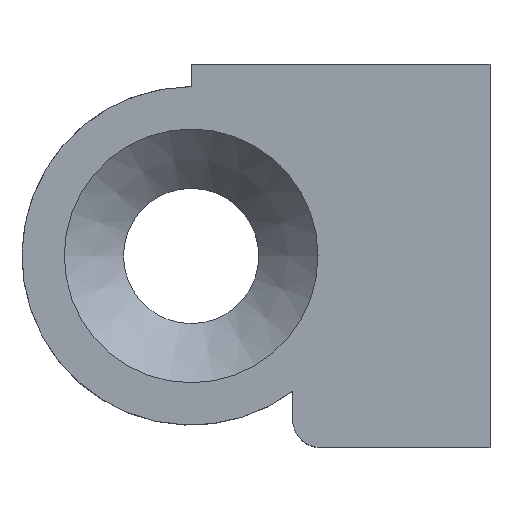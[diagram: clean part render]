
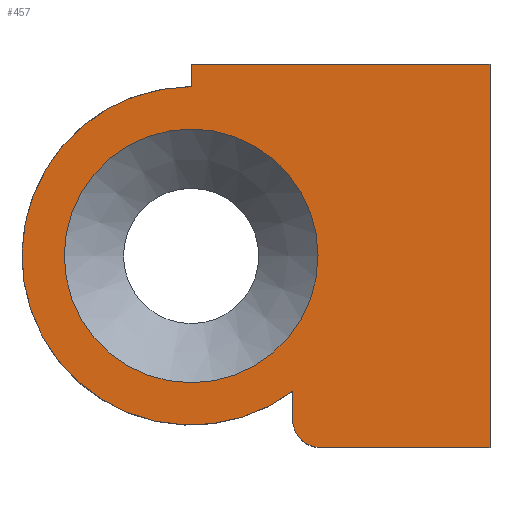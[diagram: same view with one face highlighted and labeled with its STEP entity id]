
A CAD part, top view. The second image highlights one B-rep face of the part: STEP entity #457.
In plain terms, the highlighted planar face has unit normal (0, 0, 1).
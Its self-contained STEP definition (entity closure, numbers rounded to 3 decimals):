
#44 = PLANE('',#45);
#45 = AXIS2_PLACEMENT_3D('',#46,#47,#48);
#46 = CARTESIAN_POINT('',(13.2,3.4,12.1));
#47 = DIRECTION('',(-0.,1.,0.));
#48 = DIRECTION('',(0.,0.,1.));
#72 = PLANE('',#73);
#73 = AXIS2_PLACEMENT_3D('',#74,#75,#76);
#74 = CARTESIAN_POINT('',(13.2,-2.4,12.1));
#75 = DIRECTION('',(1.,0.,-0.));
#76 = DIRECTION('',(0.,0.,1.));
#101 = CYLINDRICAL_SURFACE('',#102,3.);
#102 = AXIS2_PLACEMENT_3D('',#103,#104,#105);
#103 = CARTESIAN_POINT('',(13.2,0.,11.484));
#104 = DIRECTION('',(0.,0.,1.));
#105 = DIRECTION('',(1.,0.,-0.));
#129 = PLANE('',#130);
#130 = AXIS2_PLACEMENT_3D('',#131,#132,#133);
#131 = CARTESIAN_POINT('',(15.,-3.4,10.9));
#132 = DIRECTION('',(1.,0.,0.));
#133 = DIRECTION('',(0.,0.,1.));
#292 = CYLINDRICAL_SURFACE('',#293,0.5);
#293 = AXIS2_PLACEMENT_3D('',#294,#295,#296);
#294 = CARTESIAN_POINT('',(15.5,-2.9,10.9));
#295 = DIRECTION('',(0.,0.,1.));
#296 = DIRECTION('',(-1.,-0.,0.));
#320 = PLANE('',#321);
#321 = AXIS2_PLACEMENT_3D('',#322,#323,#324);
#322 = CARTESIAN_POINT('',(15.,-3.4,10.9));
#323 = DIRECTION('',(0.,1.,0.));
#324 = DIRECTION('',(0.,-0.,1.));
#348 = PLANE('',#349);
#349 = AXIS2_PLACEMENT_3D('',#350,#351,#352);
#350 = CARTESIAN_POINT('',(18.5,1.,12.8));
#351 = DIRECTION('',(1.,0.,-0.));
#352 = DIRECTION('',(0.,0.,1.));
#386 = VERTEX_POINT('',#387);
#387 = CARTESIAN_POINT('',(18.5,3.4,13.284));
#408 = EDGE_CURVE('',#409,#386,#411,.T.);
#409 = VERTEX_POINT('',#410);
#410 = CARTESIAN_POINT('',(18.5,-3.4,13.284));
#411 = SURFACE_CURVE('',#412,(#416,#423),.PCURVE_S1.);
#412 = LINE('',#413,#414);
#413 = CARTESIAN_POINT('',(18.5,-3.4,13.284));
#414 = VECTOR('',#415,1.);
#415 = DIRECTION('',(0.,1.,0.));
#416 = PCURVE('',#348,#417);
#417 = DEFINITIONAL_REPRESENTATION('',(#418),#422);
#418 = LINE('',#419,#420);
#419 = CARTESIAN_POINT('',(0.484,4.4));
#420 = VECTOR('',#421,1.);
#421 = DIRECTION('',(0.,-1.));
#422 = ( GEOMETRIC_REPRESENTATION_CONTEXT(2) 
PARAMETRIC_REPRESENTATION_CONTEXT() REPRESENTATION_CONTEXT('2D SPACE',''
  ) );
#423 = PCURVE('',#424,#429);
#424 = PLANE('',#425);
#425 = AXIS2_PLACEMENT_3D('',#426,#427,#428);
#426 = CARTESIAN_POINT('',(13.2,0.,13.284));
#427 = DIRECTION('',(0.,0.,1.));
#428 = DIRECTION('',(1.,0.,-0.));
#429 = DEFINITIONAL_REPRESENTATION('',(#430),#434);
#430 = LINE('',#431,#432);
#431 = CARTESIAN_POINT('',(5.3,-3.4));
#432 = VECTOR('',#433,1.);
#433 = DIRECTION('',(0.,1.));
#434 = ( GEOMETRIC_REPRESENTATION_CONTEXT(2) 
PARAMETRIC_REPRESENTATION_CONTEXT() REPRESENTATION_CONTEXT('2D SPACE',''
  ) );
#457 = ADVANCED_FACE('',(#458,#599),#424,.T.);
#458 = FACE_BOUND('',#459,.T.);
#459 = EDGE_LOOP('',(#460,#483,#506,#530,#553,#577,#598));
#460 = ORIENTED_EDGE('',*,*,#461,.F.);
#461 = EDGE_CURVE('',#462,#386,#464,.T.);
#462 = VERTEX_POINT('',#463);
#463 = CARTESIAN_POINT('',(13.2,3.4,13.284));
#464 = SURFACE_CURVE('',#465,(#469,#476),.PCURVE_S1.);
#465 = LINE('',#466,#467);
#466 = CARTESIAN_POINT('',(13.2,3.4,13.284));
#467 = VECTOR('',#468,1.);
#468 = DIRECTION('',(1.,0.,0.));
#469 = PCURVE('',#424,#470);
#470 = DEFINITIONAL_REPRESENTATION('',(#471),#475);
#471 = LINE('',#472,#473);
#472 = CARTESIAN_POINT('',(0.,3.4));
#473 = VECTOR('',#474,1.);
#474 = DIRECTION('',(1.,0.));
#475 = ( GEOMETRIC_REPRESENTATION_CONTEXT(2) 
PARAMETRIC_REPRESENTATION_CONTEXT() REPRESENTATION_CONTEXT('2D SPACE',''
  ) );
#476 = PCURVE('',#44,#477);
#477 = DEFINITIONAL_REPRESENTATION('',(#478),#482);
#478 = LINE('',#479,#480);
#479 = CARTESIAN_POINT('',(1.184,0.));
#480 = VECTOR('',#481,1.);
#481 = DIRECTION('',(0.,1.));
#482 = ( GEOMETRIC_REPRESENTATION_CONTEXT(2) 
PARAMETRIC_REPRESENTATION_CONTEXT() REPRESENTATION_CONTEXT('2D SPACE',''
  ) );
#483 = ORIENTED_EDGE('',*,*,#484,.F.);
#484 = EDGE_CURVE('',#485,#462,#487,.T.);
#485 = VERTEX_POINT('',#486);
#486 = CARTESIAN_POINT('',(13.2,3.,13.284));
#487 = SURFACE_CURVE('',#488,(#492,#499),.PCURVE_S1.);
#488 = LINE('',#489,#490);
#489 = CARTESIAN_POINT('',(13.2,-2.4,13.284));
#490 = VECTOR('',#491,1.);
#491 = DIRECTION('',(-0.,1.,0.));
#492 = PCURVE('',#424,#493);
#493 = DEFINITIONAL_REPRESENTATION('',(#494),#498);
#494 = LINE('',#495,#496);
#495 = CARTESIAN_POINT('',(0.,-2.4));
#496 = VECTOR('',#497,1.);
#497 = DIRECTION('',(0.,1.));
#498 = ( GEOMETRIC_REPRESENTATION_CONTEXT(2) 
PARAMETRIC_REPRESENTATION_CONTEXT() REPRESENTATION_CONTEXT('2D SPACE',''
  ) );
#499 = PCURVE('',#72,#500);
#500 = DEFINITIONAL_REPRESENTATION('',(#501),#505);
#501 = LINE('',#502,#503);
#502 = CARTESIAN_POINT('',(1.184,0.));
#503 = VECTOR('',#504,1.);
#504 = DIRECTION('',(0.,-1.));
#505 = ( GEOMETRIC_REPRESENTATION_CONTEXT(2) 
PARAMETRIC_REPRESENTATION_CONTEXT() REPRESENTATION_CONTEXT('2D SPACE',''
  ) );
#506 = ORIENTED_EDGE('',*,*,#507,.T.);
#507 = EDGE_CURVE('',#485,#508,#510,.T.);
#508 = VERTEX_POINT('',#509);
#509 = CARTESIAN_POINT('',(15.,-2.4,13.284));
#510 = SURFACE_CURVE('',#511,(#516,#523),.PCURVE_S1.);
#511 = CIRCLE('',#512,3.);
#512 = AXIS2_PLACEMENT_3D('',#513,#514,#515);
#513 = CARTESIAN_POINT('',(13.2,0.,13.284));
#514 = DIRECTION('',(0.,0.,1.));
#515 = DIRECTION('',(1.,0.,-0.));
#516 = PCURVE('',#424,#517);
#517 = DEFINITIONAL_REPRESENTATION('',(#518),#522);
#518 = CIRCLE('',#519,3.);
#519 = AXIS2_PLACEMENT_2D('',#520,#521);
#520 = CARTESIAN_POINT('',(0.,0.));
#521 = DIRECTION('',(1.,0.));
#522 = ( GEOMETRIC_REPRESENTATION_CONTEXT(2) 
PARAMETRIC_REPRESENTATION_CONTEXT() REPRESENTATION_CONTEXT('2D SPACE',''
  ) );
#523 = PCURVE('',#101,#524);
#524 = DEFINITIONAL_REPRESENTATION('',(#525),#529);
#525 = LINE('',#526,#527);
#526 = CARTESIAN_POINT('',(0.,1.8));
#527 = VECTOR('',#528,1.);
#528 = DIRECTION('',(1.,0.));
#529 = ( GEOMETRIC_REPRESENTATION_CONTEXT(2) 
PARAMETRIC_REPRESENTATION_CONTEXT() REPRESENTATION_CONTEXT('2D SPACE',''
  ) );
#530 = ORIENTED_EDGE('',*,*,#531,.F.);
#531 = EDGE_CURVE('',#532,#508,#534,.T.);
#532 = VERTEX_POINT('',#533);
#533 = CARTESIAN_POINT('',(15.,-2.9,13.284));
#534 = SURFACE_CURVE('',#535,(#539,#546),.PCURVE_S1.);
#535 = LINE('',#536,#537);
#536 = CARTESIAN_POINT('',(15.,-3.4,13.284));
#537 = VECTOR('',#538,1.);
#538 = DIRECTION('',(-0.,1.,0.));
#539 = PCURVE('',#424,#540);
#540 = DEFINITIONAL_REPRESENTATION('',(#541),#545);
#541 = LINE('',#542,#543);
#542 = CARTESIAN_POINT('',(1.8,-3.4));
#543 = VECTOR('',#544,1.);
#544 = DIRECTION('',(0.,1.));
#545 = ( GEOMETRIC_REPRESENTATION_CONTEXT(2) 
PARAMETRIC_REPRESENTATION_CONTEXT() REPRESENTATION_CONTEXT('2D SPACE',''
  ) );
#546 = PCURVE('',#129,#547);
#547 = DEFINITIONAL_REPRESENTATION('',(#548),#552);
#548 = LINE('',#549,#550);
#549 = CARTESIAN_POINT('',(2.384,0.));
#550 = VECTOR('',#551,1.);
#551 = DIRECTION('',(0.,-1.));
#552 = ( GEOMETRIC_REPRESENTATION_CONTEXT(2) 
PARAMETRIC_REPRESENTATION_CONTEXT() REPRESENTATION_CONTEXT('2D SPACE',''
  ) );
#553 = ORIENTED_EDGE('',*,*,#554,.T.);
#554 = EDGE_CURVE('',#532,#555,#557,.T.);
#555 = VERTEX_POINT('',#556);
#556 = CARTESIAN_POINT('',(15.5,-3.4,13.284));
#557 = SURFACE_CURVE('',#558,(#563,#570),.PCURVE_S1.);
#558 = CIRCLE('',#559,0.5);
#559 = AXIS2_PLACEMENT_3D('',#560,#561,#562);
#560 = CARTESIAN_POINT('',(15.5,-2.9,13.284));
#561 = DIRECTION('',(0.,0.,1.));
#562 = DIRECTION('',(-1.,0.,0.));
#563 = PCURVE('',#424,#564);
#564 = DEFINITIONAL_REPRESENTATION('',(#565),#569);
#565 = CIRCLE('',#566,0.5);
#566 = AXIS2_PLACEMENT_2D('',#567,#568);
#567 = CARTESIAN_POINT('',(2.3,-2.9));
#568 = DIRECTION('',(-1.,0.));
#569 = ( GEOMETRIC_REPRESENTATION_CONTEXT(2) 
PARAMETRIC_REPRESENTATION_CONTEXT() REPRESENTATION_CONTEXT('2D SPACE',''
  ) );
#570 = PCURVE('',#292,#571);
#571 = DEFINITIONAL_REPRESENTATION('',(#572),#576);
#572 = LINE('',#573,#574);
#573 = CARTESIAN_POINT('',(0.,2.384));
#574 = VECTOR('',#575,1.);
#575 = DIRECTION('',(1.,0.));
#576 = ( GEOMETRIC_REPRESENTATION_CONTEXT(2) 
PARAMETRIC_REPRESENTATION_CONTEXT() REPRESENTATION_CONTEXT('2D SPACE',''
  ) );
#577 = ORIENTED_EDGE('',*,*,#578,.T.);
#578 = EDGE_CURVE('',#555,#409,#579,.T.);
#579 = SURFACE_CURVE('',#580,(#584,#591),.PCURVE_S1.);
#580 = LINE('',#581,#582);
#581 = CARTESIAN_POINT('',(15.,-3.4,13.284));
#582 = VECTOR('',#583,1.);
#583 = DIRECTION('',(1.,0.,-0.));
#584 = PCURVE('',#424,#585);
#585 = DEFINITIONAL_REPRESENTATION('',(#586),#590);
#586 = LINE('',#587,#588);
#587 = CARTESIAN_POINT('',(1.8,-3.4));
#588 = VECTOR('',#589,1.);
#589 = DIRECTION('',(1.,0.));
#590 = ( GEOMETRIC_REPRESENTATION_CONTEXT(2) 
PARAMETRIC_REPRESENTATION_CONTEXT() REPRESENTATION_CONTEXT('2D SPACE',''
  ) );
#591 = PCURVE('',#320,#592);
#592 = DEFINITIONAL_REPRESENTATION('',(#593),#597);
#593 = LINE('',#594,#595);
#594 = CARTESIAN_POINT('',(2.384,0.));
#595 = VECTOR('',#596,1.);
#596 = DIRECTION('',(0.,1.));
#597 = ( GEOMETRIC_REPRESENTATION_CONTEXT(2) 
PARAMETRIC_REPRESENTATION_CONTEXT() REPRESENTATION_CONTEXT('2D SPACE',''
  ) );
#598 = ORIENTED_EDGE('',*,*,#408,.T.);
#599 = FACE_BOUND('',#600,.T.);
#600 = EDGE_LOOP('',(#601));
#601 = ORIENTED_EDGE('',*,*,#602,.T.);
#602 = EDGE_CURVE('',#603,#603,#605,.T.);
#603 = VERTEX_POINT('',#604);
#604 = CARTESIAN_POINT('',(15.45,0.,13.284));
#605 = SURFACE_CURVE('',#606,(#611,#622),.PCURVE_S1.);
#606 = CIRCLE('',#607,2.25);
#607 = AXIS2_PLACEMENT_3D('',#608,#609,#610);
#608 = CARTESIAN_POINT('',(13.2,0.,13.284));
#609 = DIRECTION('',(0.,0.,-1.));
#610 = DIRECTION('',(1.,0.,0.));
#611 = PCURVE('',#424,#612);
#612 = DEFINITIONAL_REPRESENTATION('',(#613),#621);
#613 = ( BOUNDED_CURVE() B_SPLINE_CURVE(2,(#614,#615,#616,#617,#618,#619
,#620),.UNSPECIFIED.,.T.,.F.) B_SPLINE_CURVE_WITH_KNOTS((1,2,2,2,2,1),(
    -2.094,0.,2.094,4.189,6.283,
8.378),.UNSPECIFIED.) CURVE() GEOMETRIC_REPRESENTATION_ITEM() 
RATIONAL_B_SPLINE_CURVE((1.,0.5,1.,0.5,1.,0.5,1.)) REPRESENTATION_ITEM(
  '') );
#614 = CARTESIAN_POINT('',(2.25,0.));
#615 = CARTESIAN_POINT('',(2.25,-3.897));
#616 = CARTESIAN_POINT('',(-1.125,-1.949));
#617 = CARTESIAN_POINT('',(-4.5,0.));
#618 = CARTESIAN_POINT('',(-1.125,1.949));
#619 = CARTESIAN_POINT('',(2.25,3.897));
#620 = CARTESIAN_POINT('',(2.25,0.));
#621 = ( GEOMETRIC_REPRESENTATION_CONTEXT(2) 
PARAMETRIC_REPRESENTATION_CONTEXT() REPRESENTATION_CONTEXT('2D SPACE',''
  ) );
#622 = PCURVE('',#623,#628);
#623 = CONICAL_SURFACE('',#624,1.2,0.785);
#624 = AXIS2_PLACEMENT_3D('',#625,#626,#627);
#625 = CARTESIAN_POINT('',(13.2,0.,12.234));
#626 = DIRECTION('',(0.,0.,1.));
#627 = DIRECTION('',(1.,0.,-0.));
#628 = DEFINITIONAL_REPRESENTATION('',(#629),#633);
#629 = LINE('',#630,#631);
#630 = CARTESIAN_POINT('',(6.283,1.05));
#631 = VECTOR('',#632,1.);
#632 = DIRECTION('',(-1.,-0.));
#633 = ( GEOMETRIC_REPRESENTATION_CONTEXT(2) 
PARAMETRIC_REPRESENTATION_CONTEXT() REPRESENTATION_CONTEXT('2D SPACE',''
  ) );
